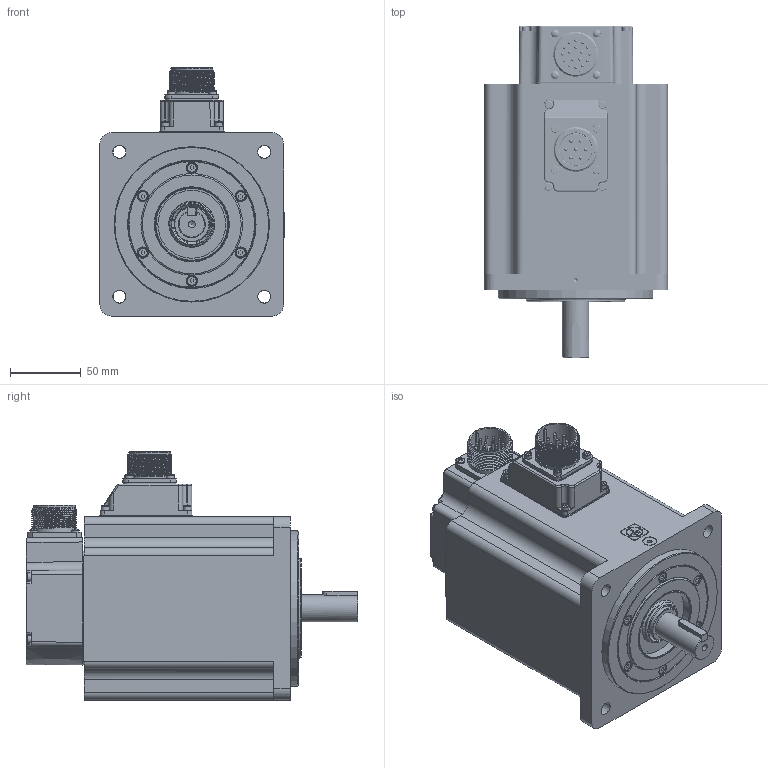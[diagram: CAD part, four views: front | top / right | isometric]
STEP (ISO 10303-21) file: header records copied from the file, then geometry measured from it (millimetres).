
FILE_DESCRIPTION( ( 'Unknown' ), '1' );
FILE_NAME( 'U:/05_Progetto TCE/010-TCE motor drawings/TCE130/Vuoti/TCE130 5D XX 3 A2 0 C3.stp', 'Unknown', ( 'Unknown' ), ( 'Unknown' ), 'PSStep 17.0.49', 'Unknown', ' ' );
FILE_SCHEMA( ( 'AUTOMOTIVE_DESIGN { 1 0 10303 214 1 1 1 1 }' ) );
Length unit declared in the file: millimetre
Products named in the file (14): 005123001528
Bounding box: 130.3 x 235 x 175.8 mm (x, y, z)
Volume: 1054836.3 mm3; surface area: 324102 mm2
Topology: 15 solids, 94 shells, 2969 faces, 7447 edges, 4839 vertices
Faces by surface type: plane 1551, cylinder 685, extrusion 233, cone 150, torus 141, bspline 137, sphere 72
Full cylindrical faces by diameter (mm): 2 x34, 2.224 x1, 2.4 x8, 2.459 x24, 2.5 x1, 2.6 x1, 2.8 x7, 2.9 x4, 3 x30, 3.048 x4, 3.2 x5, 3.242 x24, 3.5 x11, 3.6 x1, 3.7 x8, 3.8 x2, 4 x23, 4.134 x16, 4.5 x6, 4.7 x11, 4.917 x2, 5 x8, 5.1 x1, 5.5 x34, 5.6 x4, 5.8 x6, 7 x10, 8 x13, 8.5 x8, 10 x1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
Entity records: 125502 total; most frequent: CARTESIAN_POINT 40977, ORIENTED_EDGE 12640, DIRECTION 12598, EDGE_CURVE 6320, VERTEX_POINT 4473, AXIS2_PLACEMENT_3D 4384, EDGE_LOOP 3954, VECTOR 3830
